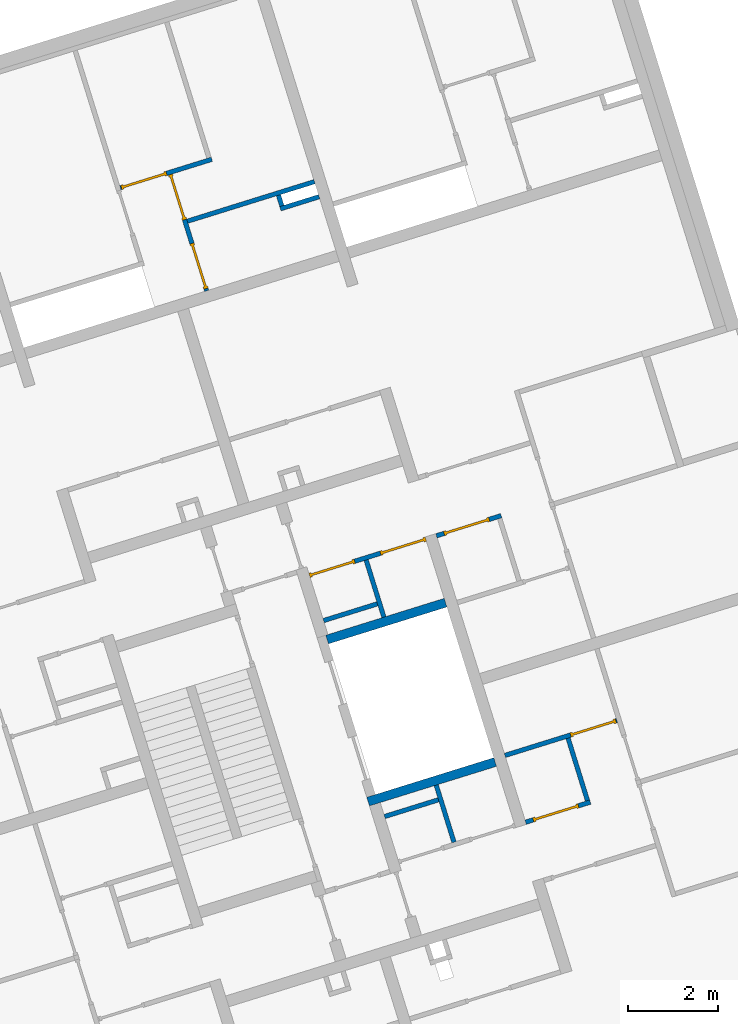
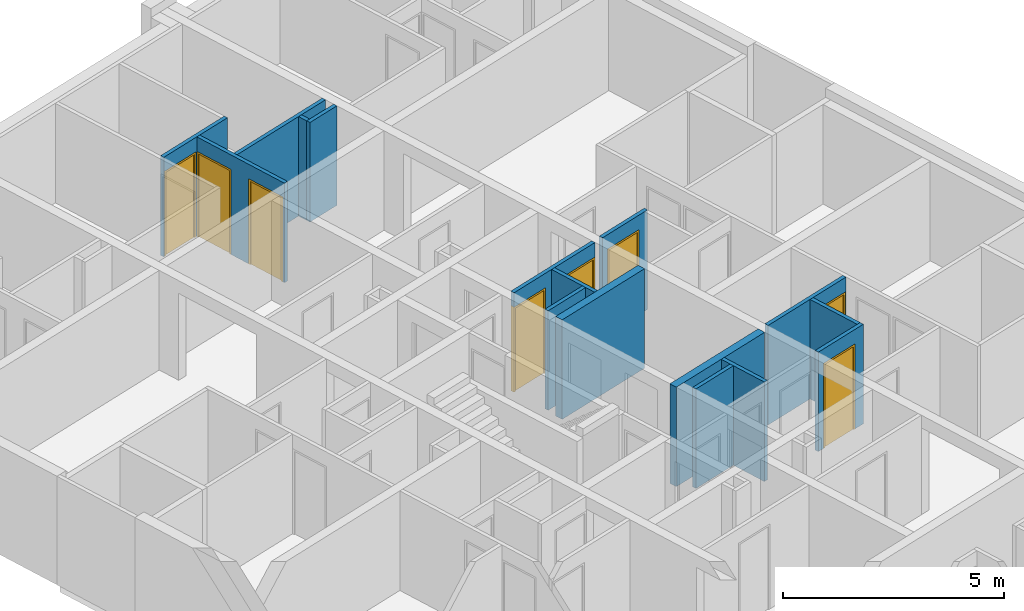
# One storey, part 7 of 12: 16 walls, 8 doors, 10 openings.
"""IFC4 building model written with IfcOpenShell, lengths in metres."""

from ifc_helpers import new_model, entity, si_unit, converted_unit, direction, frame, origin, place, context, subcontext, project, spatial, indexed_curve, outline, extrude, polygons, source, transform, mapped, material, constituent, constituent_set, type_object, type_shapes, element, fill, save


model = new_model("IFC4")

# Units and contexts
model_context = context("Model", 3, precision=1e-05, world=origin(), true_north=direction((6.12323399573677e-17, 1.0)))
body_context = subcontext(model_context, "Body", "Model", "MODEL_VIEW")
ifc_project = project(units=[si_unit("LENGTHUNIT", "METRE"), si_unit("AREAUNIT", "SQUARE_METRE"), converted_unit("PLANEANGLEUNIT", "DEGREE", entity("IfcPlaneAngleMeasure", 0.0174532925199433), si_unit("PLANEANGLEUNIT", "RADIAN"), dimensions=[0, 0, 0, 0, 0, 0, 0]), si_unit("VOLUMEUNIT", "CUBIC_METRE")], contexts=[model_context])

# Site, building, storey
site_placement = place(None, frame((13.1347999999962, 11.9886000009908, 0.0), z_axis=(0.0, 0.0, 1.0), x_axis=(0.954770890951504, 0.297342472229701, 0.0)))
site = spatial("IfcSite", under=ifc_project, at=site_placement, Name="Schiehaven", CompositionType="ELEMENT")
building_placement = place(site_placement, origin())
building = spatial("IfcBuilding", under=site, at=building_placement, Name="VORM huis", CompositionType="ELEMENT")
storey_placement = place(building_placement, frame((0.0, 0.0, 3.9)))
storey = spatial("IfcBuildingStorey", under=building, at=storey_placement, Name="01 eerste verdieping", CompositionType="ELEMENT", Elevation=3.9)

# Walls
ifc_material_1 = material(Name="beton_gewapend_prefab-element", Category="Miscellaneous")
wall_type_1 = type_object("IfcWallType", Name="Basic Wall:28_WA_skelet_wand 200mm_gen", PredefinedType="STANDARD")
wall_1_placement = place(storey_placement, frame((72.3750000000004, 15.2000000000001, 0.0), z_axis=(0.0, 0.0, 1.0), x_axis=(-1.0, 0.0, 0.0)))
element("IfcWall", 1, at=wall_1_placement, inside=storey, type_object=wall_type_1, material=ifc_material_1, Name="Constructieve wand", ObjectType="Wand", PredefinedType="NOTDEFINED", context=body_context, shape_type="SweptSolid", body=[
    extrude(outline(indexed_curve([(2.95, 0.0999999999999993), (3.5332231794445e-16, 0.0999999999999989), (-3.5332231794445e-16, -0.0999999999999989), (2.95, -0.0999999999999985), (2.95, 0.0999999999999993)], self_intersect=False)), origin(), (0.0, 0.0, 1.0), 2.75),
])
wall_2_placement = place(storey_placement, frame((69.6250000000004, 18.9, 0.0)))
element("IfcWall", 2, at=wall_2_placement, inside=storey, type_object=wall_type_1, material=ifc_material_1, Name="Constructieve wand", ObjectType="Wand", PredefinedType="NOTDEFINED", context=body_context, shape_type="SweptSolid", body=[
    extrude(outline(indexed_curve([(2.75, 0.0999999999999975), (2.07315726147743e-16, 0.0999999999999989), (-2.07315726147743e-16, -0.0999999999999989), (2.75, -0.1), (2.75, 0.0999999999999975)], self_intersect=False)), origin(), (0.0, 0.0, 1.0), 2.75),
])

# Wall, openings, door
ifc_material_2 = material(Name="ntb_ntb_ntb", Category="Miscellaneous")
wall_type_2 = type_object("IfcWallType", Name="Basic Wall:22_WA_afbouw_binnenwand 100mm_gen", PredefinedType="STANDARD")
wall_3_placement = place(storey_placement, frame((68.2250000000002, 29.8249999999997, 0.0)))
wall_3 = element("IfcWall", 3, at=wall_3_placement, inside=storey, type_object=wall_type_2, material=ifc_material_2, Name="Binnenwand", ObjectType="Wand", PredefinedType="NOTDEFINED", context=body_context, shape_type="Tessellation", body=[
    polygons([(2.12499999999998, -0.0500000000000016, 2.75), (1.19999999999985, -0.0499999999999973, 2.75), (1.09999999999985, -0.0499999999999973, 2.75), (-6.43218536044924e-15, -0.0499999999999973, 2.75), (2.23075167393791e-15, -0.0499999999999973, 2.34999999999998), (-6.43218536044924e-15, -0.0499999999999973, 0.0), (0.0250000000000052, -0.0499999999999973, 0.0), (0.0250000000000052, -0.0499999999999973, 2.34999999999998), (1.07500000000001, -0.0499999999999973, 2.34999999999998), (1.07500000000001, -0.0499999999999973, 0.0), (2.12499999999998, -0.0500000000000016, 0.0), (-7.09387066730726e-15, 0.050000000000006, 2.75), (2.02499999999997, 0.0500000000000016, 2.75), (2.12499999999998, 0.0500000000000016, 2.75), (2.12499999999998, 0.0500000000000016, 0.0), (2.02499999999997, 0.0500000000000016, 5.41433564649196e-16), (1.07500000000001, 0.0500000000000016, 0.0), (1.07500000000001, 0.0500000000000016, 2.34999999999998), (0.0250000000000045, 0.050000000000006, 2.34999999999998), (0.0250000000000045, 0.050000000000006, 0.0), (-7.09387066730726e-15, 0.050000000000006, 0.0)], [[[1, 2, 3, 4, 5, 6, 7, 8, 9, 10, 11]], [[12, 13, 14, 15, 16, 17, 18, 19, 20, 21]], [[6, 21, 20, 7]], [[4, 3, 2, 1, 14, 13, 12]], [[6, 5, 4, 12, 21]], [[19, 8, 7, 20]], [[9, 18, 17, 10]], [[8, 19, 18, 9]], [[1, 11, 15, 14]], [[15, 11, 10, 17, 16]]], closed=True),
])
opening_1_placement = place(wall_3_placement, origin())
element("IfcOpeningElement", 4, at=opening_1_placement, cuts=wall_3, Name="Binnendeur", PredefinedType="OPENING", context=body_context, shape_type="SweptSolid", body=[
    extrude(outline(indexed_curve([(-0.050000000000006, -1.17499999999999), (0.0499999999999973, -1.17499999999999), (0.0499999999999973, 1.17499999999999), (-0.050000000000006, 1.17499999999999), (-0.050000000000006, -1.17499999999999)], self_intersect=False)), frame((1.14999999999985, -1.10000000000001, 1.17499999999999), z_axis=(0.0, 1.0, 0.0), x_axis=(1.0, 0.0, 0.0)), (0.0, 0.0, 1.0), 1.05),
])
opening_2_placement = place(wall_3_placement, frame((1.07500000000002, 0.049999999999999, 0.0)))
opening_2 = element("IfcOpeningElement", 5, at=opening_2_placement, cuts=wall_3, Name="Binnendeur", PredefinedType="OPENING", context=body_context, shape_type="SweptSolid", body=[
    extrude(outline(indexed_curve([(2.34999999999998, 1.05), (0.0, 1.05), (0.0, -1.13635160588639e-29), (2.34999999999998, -1.13635160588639e-29), (2.34999999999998, 1.05)], self_intersect=False)), frame((0.0, 0.0, 0.0), z_axis=(0.0, -1.0, 0.0), x_axis=(0.0, 0.0, 1.0)), (0.0, 0.0, 1.0), 0.1),
])
ifc_material_3 = material(Name="PD_a_binnenwandopeningen", Category="Miscellaneous")
ifc_constituent_1 = constituent(ifc_material_3, Name="PD_a_binnenwandopeningen", Category="Miscellaneous")
ifc_material_4 = material(Name="metaal_aluminium_ntb", Category="Miscellaneous")
ifc_constituent_2 = constituent(ifc_material_4, Name="metaal_aluminium_ntb", Category="Miscellaneous")
ifc_constituent_set_1 = constituent_set(constituents=[ifc_constituent_1, ifc_constituent_2])
ifc_constituent_3 = constituent(ifc_material_3, Name="PD_a_binnenwandopeningen", Category="Miscellaneous")
ifc_constituent_4 = constituent(ifc_material_4, Name="Panel", Category="Miscellaneous")
ifc_constituent_set_2 = constituent_set(constituents=[ifc_constituent_3, ifc_constituent_4])
door_type_1 = type_object("IfcDoorType", Name="32_DO_binnendeur enkel:binnendeur", OperationType="REVOLVING", PredefinedType="DOOR", material=ifc_constituent_set_2)
shared_shape_1 = source(origin(), body_context, "Body", "SweptSolid", [
    extrude(outline(indexed_curve([(-1.16249999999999, -0.525000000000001), (1.18749999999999, -0.525), (1.18749999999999, 0.525), (-1.16249999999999, 0.525), (-1.16249999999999, 0.475), (1.13749999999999, 0.475), (1.13749999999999, -0.475), (-1.16249999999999, -0.475), (-1.16249999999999, -0.525000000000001)], self_intersect=False)), frame((0.525000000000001, 0.0, 1.16249999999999), z_axis=(0.0, 1.0, 0.0), x_axis=(0.0, 0.0, 1.0)), (0.0, 0.0, 1.0), 0.1),
    extrude(outline(indexed_curve([(-0.025, -0.475), (0.025, -0.475), (0.025, 0.475), (-0.025, 0.475), (-0.025, -0.475)], self_intersect=False)), frame((0.525000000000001, 0.0499999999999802, 0.0), z_axis=(0.0, 0.0, 1.0), x_axis=(0.0, 1.0, 0.0)), (0.0, 0.0, 1.0), 2.29999999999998),
])
type_shapes(door_type_1, [shared_shape_1])
door_1_placement = place(opening_2_placement, frame((0.0, 0.0, 0.0), z_axis=(0.0, 0.0, 1.0), x_axis=(-1.0, 0.0, 0.0)))
door_1 = element("IfcDoor", 6, at=door_1_placement, inside=storey, type_object=door_type_1, material=ifc_constituent_set_1, Name="Binnendeur", ObjectType="Deur", OperationType="REVOLVING", OverallHeight=2.34999999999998, OverallWidth=1.05, PredefinedType="DOOR", context=body_context, shape_type="MappedRepresentation", body=[
    mapped(shared_shape_1, transform((0.0, 0.0, 0.0), scale=1.0)),
])
fill(opening_2, door_1)

# Wall, openings, doors
wall_4_placement = place(storey_placement, frame((69.375, 29.7749999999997, 0.0), z_axis=(0.0, 0.0, 1.0), x_axis=(0.0, -1.0, 0.0)))
wall_4 = element("IfcWall", 7, at=wall_4_placement, inside=storey, type_object=wall_type_2, material=ifc_material_2, Name="Binnenwand", ObjectType="Wand", PredefinedType="NOTDEFINED", context=body_context, shape_type="Tessellation", body=[
    polygons([(2.69999999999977, -0.0499999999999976, 2.75), (0.0, -0.0500000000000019, 2.75), (0.0, -0.0500000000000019, 2.34999999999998), (1.05, -0.0500000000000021, 2.34999999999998), (1.05, -0.0500000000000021, 0.0), (1.59999999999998, -0.0499999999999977, 0.0), (1.59999999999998, -0.0499999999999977, 2.34999999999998), (2.64999999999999, -0.049999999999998, 2.34999999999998), (2.64999999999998, -0.049999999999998, 0.0), (2.69999999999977, -0.0499999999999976, 0.0), (0.0, 0.0500000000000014, 2.75), (1.05000000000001, 0.0500000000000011, 2.75), (1.15000000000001, 0.0500000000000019, 2.75), (2.69999999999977, 0.0500000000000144, 2.75), (2.69999999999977, 0.0500000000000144, 0.0), (2.64999999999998, 0.050000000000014, 0.0), (2.64999999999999, 0.050000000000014, 2.34999999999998), (1.59999999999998, 0.0500000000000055, 2.34999999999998), (1.59999999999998, 0.0500000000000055, 0.0), (1.15000000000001, 0.0500000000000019, 5.41433564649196e-16), (1.05, 0.0500000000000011, 0.0), (1.05, 0.0500000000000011, 2.34999999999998), (0.0, 0.0500000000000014, 2.34999999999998)], [[[1, 2, 3, 4, 5, 6, 7, 8, 9, 10]], [[11, 12, 13, 14, 15, 16, 17, 18, 19, 20, 21, 22, 23]], [[9, 16, 15, 10]], [[2, 1, 14, 13, 12, 11]], [[18, 17, 8, 7]], [[17, 16, 9, 8]], [[19, 18, 7, 6]], [[2, 11, 23, 3]], [[4, 22, 21, 5]], [[22, 4, 3, 23]], [[1, 10, 15, 14]], [[19, 6, 5, 21, 20]]], closed=True),
])
opening_3_placement = place(wall_4_placement, frame((2.64999999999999, 0.0499999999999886, 0.0)))
opening_3 = element("IfcOpeningElement", 8, at=opening_3_placement, cuts=wall_4, Name="Binnendeur", PredefinedType="OPENING", context=body_context, shape_type="SweptSolid", body=[
    extrude(outline(indexed_curve([(2.34999999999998, 1.05), (0.0, 1.05), (0.0, 0.0), (2.34999999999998, 0.0), (2.34999999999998, 1.05)], self_intersect=False)), frame((0.0, 0.0, 0.0), z_axis=(0.0, -1.0, 0.0), x_axis=(0.0, 0.0, 1.0)), (0.0, 0.0, 1.0), 0.1),
])
opening_4_placement = place(wall_4_placement, frame((29.7749999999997, -69.375, 0.0), z_axis=(0.0, 0.0, 1.0), x_axis=(0.0, 1.0, 0.0)))
element("IfcOpeningElement", 9, at=opening_4_placement, cuts=wall_4, Name="Binnendeur", PredefinedType="OPENING", context=body_context, shape_type="SweptSolid", body=[
    extrude(outline(indexed_curve([(-0.525000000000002, -1.17499999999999), (0.525000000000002, -1.17499999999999), (0.524999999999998, 1.17499999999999), (-0.525000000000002, 1.17499999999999), (-0.525000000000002, -1.17499999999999)], self_intersect=False)), frame((67.901, 27.6499999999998, 1.17499999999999), z_axis=(1.0, 0.0, 0.0), x_axis=(0.0, -1.0, 0.0)), (0.0, 0.0, 1.0), 3.048),
])
opening_5_placement = place(wall_4_placement, frame((1.05000000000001, 0.050000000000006, 0.0)))
opening_5 = element("IfcOpeningElement", 10, at=opening_5_placement, cuts=wall_4, Name="Binnendeur", PredefinedType="OPENING", context=body_context, shape_type="SweptSolid", body=[
    extrude(outline(indexed_curve([(2.34999999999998, 1.05), (0.0, 1.05), (0.0, 0.0), (2.34999999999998, 0.0), (2.34999999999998, 1.05)], self_intersect=False)), frame((0.0, 0.0, 0.0), z_axis=(0.0, -1.0, 0.0), x_axis=(0.0, 0.0, 1.0)), (0.0, 0.0, 1.0), 0.1),
])
ifc_constituent_5 = constituent(ifc_material_3, Name="PD_a_binnenwandopeningen", Category="Miscellaneous")
ifc_constituent_6 = constituent(ifc_material_4, Name="metaal_aluminium_ntb", Category="Miscellaneous")
ifc_constituent_set_3 = constituent_set(constituents=[ifc_constituent_5, ifc_constituent_6])
door_2_placement = place(opening_3_placement, frame((0.0, 0.0, 0.0), z_axis=(0.0, 0.0, 1.0), x_axis=(-1.0, 0.0, 0.0)))
door_2 = element("IfcDoor", 11, at=door_2_placement, inside=storey, type_object=door_type_1, material=ifc_constituent_set_3, Name="Binnendeur", ObjectType="Deur", OperationType="REVOLVING", OverallHeight=2.34999999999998, OverallWidth=1.05, PredefinedType="DOOR", context=body_context, shape_type="MappedRepresentation", body=[
    mapped(shared_shape_1, transform((0.0, 0.0, 0.0), scale=1.0)),
])
fill(opening_3, door_2)
ifc_constituent_7 = constituent(ifc_material_3, Name="PD_a_binnenwandopeningen", Category="Miscellaneous")
ifc_constituent_8 = constituent(ifc_material_4, Name="metaal_aluminium_ntb", Category="Miscellaneous")
ifc_constituent_set_4 = constituent_set(constituents=[ifc_constituent_7, ifc_constituent_8])
door_3_placement = place(opening_5_placement, frame((0.0, 0.0, 0.0), z_axis=(0.0, 0.0, 1.0), x_axis=(-1.0, 0.0, 0.0)))
door_3 = element("IfcDoor", 12, at=door_3_placement, inside=storey, type_object=door_type_1, material=ifc_constituent_set_4, Name="Binnendeur", ObjectType="Deur", OperationType="REVOLVING", OverallHeight=2.34999999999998, OverallWidth=1.05, PredefinedType="DOOR", context=body_context, shape_type="MappedRepresentation", body=[
    mapped(shared_shape_1, transform((0.0, 0.0, 0.0), scale=1.0)),
])
fill(opening_5, door_3)

# Walls
wall_5_placement = place(storey_placement, frame((69.425, 28.6749999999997, 0.0)))
element("IfcWall", 13, at=wall_5_placement, inside=storey, type_object=wall_type_2, material=ifc_material_2, Name="Binnenwand", ObjectType="Wand", PredefinedType="NOTDEFINED", context=body_context, shape_type="SweptSolid", body=[
    extrude(outline(indexed_curve([(2.9500000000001, 0.0499999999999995), (-3.30842653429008e-16, 0.0500000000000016), (3.30842653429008e-16, -0.0500000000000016), (2.9500000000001, -0.0500000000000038), (2.9500000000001, 0.0499999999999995)], self_intersect=False)), origin(), (0.0, 0.0, 1.0), 2.75),
])
wall_6_placement = place(storey_placement, frame((72.3750000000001, 28.3249999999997, 0.0), z_axis=(0.0, 0.0, 1.0), x_axis=(-1.0, 0.0, 0.0)))
element("IfcWall", 14, at=wall_6_placement, inside=storey, type_object=wall_type_2, material=ifc_material_2, Name="Binnenwand", ObjectType="Wand", PredefinedType="NOTDEFINED", context=body_context, shape_type="SweptSolid", body=[
    extrude(outline(indexed_curve([(0.899999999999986, 0.0500000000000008), (-4.33538283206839e-16, 0.0500000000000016), (4.33538283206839e-16, -0.0500000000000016), (0.899999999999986, -0.0500000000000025), (0.899999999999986, 0.0500000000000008)], self_intersect=False)), origin(), (0.0, 0.0, 1.0), 2.75),
])
wall_7_placement = place(storey_placement, frame((71.5250000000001, 28.3749999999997, 0.0), z_axis=(0.0, 0.0, 1.0), x_axis=(0.0, 1.0, 0.0)))
element("IfcWall", 15, at=wall_7_placement, inside=storey, type_object=wall_type_2, material=ifc_material_2, Name="Binnenwand", ObjectType="Wand", PredefinedType="NOTDEFINED", context=body_context, shape_type="SweptSolid", body=[
    extrude(outline(indexed_curve([(0.250000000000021, 0.049999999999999), (-3.3084265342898e-16, 0.0499999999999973), (3.3084265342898e-16, -0.0499999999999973), (0.250000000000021, -0.0499999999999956), (0.250000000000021, 0.049999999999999)], self_intersect=False)), origin(), (0.0, 0.0, 1.0), 2.75),
])

# Wall, opening, door
wall_8_placement = place(storey_placement, frame((75.2249999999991, 15.2749999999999, 0.0), z_axis=(0.0, 0.0, 1.0), x_axis=(-1.0, 0.0, 0.0)))
wall_8 = element("IfcWall", 16, at=wall_8_placement, inside=storey, type_object=wall_type_2, material=ifc_material_2, Name="Binnenwand", ObjectType="Wand", PredefinedType="NOTDEFINED", context=body_context, shape_type="Tessellation", body=[
    polygons([(1.07500000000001, -0.0499999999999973, 2.34999999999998), (1.07500000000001, -0.0499999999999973, -5.41433564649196e-16), (2.59999999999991, -0.0499999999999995, -5.41433564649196e-16), (2.59999999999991, -0.0499999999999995, 2.75), (7.67813618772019e-15, -0.0499999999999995, 2.75), (7.67813618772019e-15, -0.0499999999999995, -5.41433564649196e-16), (0.025000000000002, -0.0499999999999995, -5.41433564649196e-16), (0.025000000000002, -0.0499999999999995, 2.34999999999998), (2.59999999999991, 0.0499999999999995, -5.41433564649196e-16), (1.20000000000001, 0.0499999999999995, 0.0), (1.10000000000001, 0.0499999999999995, 0.0), (1.07500000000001, 0.0499999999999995, -5.41433564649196e-16), (1.07500000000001, 0.0499999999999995, 2.34999999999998), (0.0250000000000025, 0.0500000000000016, 2.34999999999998), (0.0250000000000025, 0.0500000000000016, -5.41433564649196e-16), (8.13678739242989e-15, 0.0499999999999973, -5.41433564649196e-16), (8.13678739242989e-15, 0.0499999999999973, 2.75), (1.10000000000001, 0.0499999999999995, 2.75), (1.20000000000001, 0.0499999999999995, 2.75), (2.59999999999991, 0.0499999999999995, 2.75)], [[[1, 2, 3, 4, 5, 6, 7, 8]], [[9, 10, 11, 12, 13, 14, 15, 16, 17, 18, 19, 20]], [[7, 6, 16, 15]], [[4, 3, 9, 20]], [[5, 4, 20, 19, 18, 17]], [[15, 14, 8, 7]], [[13, 12, 2, 1]], [[14, 13, 1, 8]], [[6, 5, 17, 16]], [[3, 2, 12, 11, 10, 9]]], closed=True),
])
opening_6_placement = place(wall_8_placement, frame((0.0249999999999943, -0.0500000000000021, 0.0)))
opening_6 = element("IfcOpeningElement", 17, at=opening_6_placement, cuts=wall_8, Name="Binnendeur", PredefinedType="OPENING", context=body_context, shape_type="SweptSolid", body=[
    extrude(outline(indexed_curve([(2.34999999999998, 2.21168155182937e-30), (2.34999999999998, 1.05), (0.0, 1.05), (0.0, 2.21168155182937e-30), (2.34999999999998, 2.21168155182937e-30)], self_intersect=False)), frame((0.0, 0.0, 0.0), z_axis=(0.0, 1.0, 0.0), x_axis=(0.0, 0.0, 1.0)), (0.0, 0.0, 1.0), 0.1),
])
ifc_constituent_9 = constituent(ifc_material_3, Name="PD_a_binnenwandopeningen", Category="Miscellaneous")
ifc_constituent_10 = constituent(ifc_material_4, Name="metaal_aluminium_ntb", Category="Miscellaneous")
ifc_constituent_set_5 = constituent_set(constituents=[ifc_constituent_9, ifc_constituent_10])
ifc_constituent_11 = constituent(ifc_material_3, Name="PD_a_binnenwandopeningen", Category="Miscellaneous")
ifc_constituent_12 = constituent(ifc_material_4, Name="Panel", Category="Miscellaneous")
ifc_constituent_set_6 = constituent_set(constituents=[ifc_constituent_11, ifc_constituent_12])
door_type_2 = type_object("IfcDoorType", Name="32_DO_binnendeur enkel:binnendeur", OperationType="REVOLVING", PredefinedType="DOOR", material=ifc_constituent_set_6)
shared_shape_2 = source(origin(), body_context, "Body", "SweptSolid", [
    extrude(outline(indexed_curve([(0.475, -1.16249999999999), (0.525, -1.16249999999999), (0.525, 1.18749999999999), (-0.525, 1.18749999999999), (-0.525, -1.16249999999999), (-0.475, -1.16249999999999), (-0.475, 1.13749999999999), (0.475, 1.13749999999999), (0.475, -1.16249999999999)], self_intersect=False)), frame((0.525000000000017, 0.100000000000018, 1.16249999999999), z_axis=(0.0, -1.0, 0.0), x_axis=(1.0, 0.0, 0.0)), (0.0, 0.0, 1.0), 0.1),
    extrude(outline(indexed_curve([(-0.475, -0.025), (0.475, -0.025), (0.475, 0.025), (-0.475, 0.025), (-0.475, -0.025)], self_intersect=False)), frame((0.525000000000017, 0.0499999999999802, 0.0)), (0.0, 0.0, 1.0), 2.29999999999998),
])
type_shapes(door_type_2, [shared_shape_2])
door_4_placement = place(opening_6_placement, origin())
door_4 = element("IfcDoor", 18, at=door_4_placement, inside=storey, type_object=door_type_2, material=ifc_constituent_set_5, Name="Binnendeur", ObjectType="Deur", OperationType="REVOLVING", OverallHeight=2.34999999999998, OverallWidth=1.05, PredefinedType="DOOR", context=body_context, shape_type="MappedRepresentation", body=[
    mapped(shared_shape_2, transform((0.0, 0.0, 0.0), scale=1.0)),
])
fill(opening_6, door_4)

# Walls
wall_9_placement = place(storey_placement, frame((74.0749999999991, 15.2249999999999, 0.0), z_axis=(0.0, 0.0, 1.0), x_axis=(0.0, -1.0, 0.0)))
element("IfcWall", 19, at=wall_9_placement, inside=storey, type_object=wall_type_2, material=ifc_material_2, Name="Binnenwand", ObjectType="Wand", PredefinedType="NOTDEFINED", context=body_context, shape_type="SweptSolid", body=[
    extrude(outline(indexed_curve([(1.4500000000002, 0.0499999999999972), (3.02748582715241e-16, 0.0499999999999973), (-3.02748582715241e-16, -0.0499999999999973), (1.4500000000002, -0.0499999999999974), (1.4500000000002, 0.0499999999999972)], self_intersect=False)), origin(), (0.0, 0.0, 1.0), 2.75),
])
wall_10_placement = place(storey_placement, frame((69.6749999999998, 14.7749999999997, 0.0)))
element("IfcWall", 20, at=wall_10_placement, inside=storey, type_object=wall_type_2, material=ifc_material_2, Name="Binnenwand", ObjectType="Wand", PredefinedType="NOTDEFINED", context=body_context, shape_type="SweptSolid", body=[
    extrude(outline(indexed_curve([(1.24999999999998, 0.0499999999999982), (4.83439307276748e-16, 0.0499999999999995), (-4.83439307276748e-16, -0.0499999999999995), (1.24999999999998, -0.0500000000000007), (1.24999999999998, 0.0499999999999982)], self_intersect=False)), origin(), (0.0, 0.0, 1.0), 2.75),
])
wall_11_placement = place(storey_placement, frame((70.9749999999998, 13.7749999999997, 0.0), z_axis=(0.0, 0.0, 1.0), x_axis=(0.0, 1.0, 0.0)))
element("IfcWall", 21, at=wall_11_placement, inside=storey, type_object=wall_type_2, material=ifc_material_2, Name="Binnenwand", ObjectType="Wand", PredefinedType="NOTDEFINED", context=body_context, shape_type="SweptSolid", body=[
    extrude(outline(indexed_curve([(1.32500000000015, 0.0499999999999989), (2.65719990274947e-16, 0.0499999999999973), (-2.65719990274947e-16, -0.0499999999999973), (1.32500000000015, -0.0499999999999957), (1.32500000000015, 0.0499999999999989)], self_intersect=False)), origin(), (0.0, 0.0, 1.0), 2.75),
])

# Wall, opening, door
wall_12_placement = place(storey_placement, frame((72.6228357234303, 13.7249999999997, 0.0)))
wall_12 = element("IfcWall", 22, at=wall_12_placement, inside=storey, type_object=wall_type_2, material=ifc_material_2, Name="Binnenwand", ObjectType="Wand", PredefinedType="NOTDEFINED", context=body_context, shape_type="Tessellation", body=[
    polygons([(-4.30754622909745e-15, -0.0500000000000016, -5.41433564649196e-16), (0.176082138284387, -0.0499999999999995, -5.41433564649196e-16), (0.176082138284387, -0.0499999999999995, 2.34999999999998), (1.22608213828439, -0.0499999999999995, 2.34999999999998), (1.22608213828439, -0.0499999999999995, -5.41433564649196e-16), (1.50216427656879, -0.0499999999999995, -5.41433564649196e-16), (1.50216427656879, -0.0499999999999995, 2.75), (-4.30754622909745e-15, -0.0500000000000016, 2.75), (0.176082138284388, 0.0499999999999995, 2.34999999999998), (0.176082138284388, 0.0499999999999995, -5.41433564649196e-16), (-3.32546618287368e-15, 0.0499999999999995, -5.41433564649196e-16), (-3.32546618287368e-15, 0.0499999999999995, 2.75), (1.40216427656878, 0.0499999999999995, 2.75), (1.50216427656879, 0.0499999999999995, 2.75), (1.50216427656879, 0.0499999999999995, -5.41433564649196e-16), (1.40216427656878, 0.0499999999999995, 0.0), (1.22608213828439, 0.0499999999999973, -5.41433564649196e-16), (1.22608213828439, 0.0499999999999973, 2.34999999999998)], [[[1, 2, 3, 4, 5, 6, 7, 8]], [[9, 10, 11, 12, 13, 14, 15, 16, 17, 18]], [[11, 10, 2, 1]], [[8, 7, 14, 13, 12]], [[1, 8, 12, 11]], [[5, 4, 18, 17]], [[3, 2, 10, 9]], [[4, 3, 9, 18]], [[7, 6, 15, 14]], [[17, 16, 15, 6, 5]]], closed=True),
])
opening_7_placement = place(wall_12_placement, frame((1.22608213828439, 0.0500000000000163, 0.0)))
opening_7 = element("IfcOpeningElement", 23, at=opening_7_placement, cuts=wall_12, Name="Binnendeur", PredefinedType="OPENING", context=body_context, shape_type="SweptSolid", body=[
    extrude(outline(indexed_curve([(2.34999999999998, 1.62011819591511e-29), (2.34999999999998, 1.05), (0.0, 1.05), (0.0, 1.62011819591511e-29), (2.34999999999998, 1.62011819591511e-29)], self_intersect=False)), frame((0.0, 0.0, 0.0), z_axis=(0.0, -1.0, 0.0), x_axis=(0.0, 0.0, 1.0)), (0.0, 0.0, 1.0), 0.1),
])
ifc_constituent_13 = constituent(ifc_material_3, Name="PD_a_binnenwandopeningen", Category="Miscellaneous")
ifc_constituent_14 = constituent(ifc_material_4, Name="metaal_aluminium_ntb", Category="Miscellaneous")
ifc_constituent_set_7 = constituent_set(constituents=[ifc_constituent_13, ifc_constituent_14])
door_5_placement = place(opening_7_placement, frame((0.0, 0.0, 0.0), z_axis=(0.0, 0.0, 1.0), x_axis=(-1.0, 0.0, 0.0)))
door_5 = element("IfcDoor", 24, at=door_5_placement, inside=storey, type_object=door_type_2, material=ifc_constituent_set_7, Name="Binnendeur", ObjectType="Deur", OperationType="REVOLVING", OverallHeight=2.34999999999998, OverallWidth=1.05, PredefinedType="DOOR", context=body_context, shape_type="MappedRepresentation", body=[
    mapped(shared_shape_2, transform((0.0, 0.0, 0.0), scale=1.0)),
])
fill(opening_7, door_5)

# Wall, openings, doors
wall_13_placement = place(storey_placement, frame((69.6749999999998, 20.3750000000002, 0.0)))
wall_13 = element("IfcWall", 25, at=wall_13_placement, inside=storey, type_object=wall_type_2, material=ifc_material_2, Name="Binnenwand", ObjectType="Wand", PredefinedType="NOTDEFINED", context=body_context, shape_type="Tessellation", body=[
    polygons([(2.70000000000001, -0.0499999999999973, 2.75), (1.34999999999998, -0.0499999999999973, 2.75), (1.24999999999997, -0.0499999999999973, 2.75), (-3.75329629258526e-15, -0.0499999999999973, 2.75), (-3.75329629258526e-15, -0.0499999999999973, 2.34999999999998), (1.04999999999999, -0.0499999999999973, 2.34999999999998), (1.04999999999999, -0.0499999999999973, -5.41433564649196e-16), (1.24999999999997, -0.0499999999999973, 0.0), (1.34999999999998, -0.0499999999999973, 0.0), (1.64999999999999, -0.0500000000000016, -5.41433564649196e-16), (1.64999999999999, -0.0499999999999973, 2.34999999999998), (2.70000000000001, -0.0499999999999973, 2.34999999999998), (-4.70944837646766e-15, 0.0500000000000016, 2.75), (2.70000000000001, 0.0500000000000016, 2.75), (2.70000000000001, 0.0500000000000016, 2.34999999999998), (1.64999999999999, 0.0500000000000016, 2.34999999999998), (1.64999999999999, 0.0500000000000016, -5.41433564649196e-16), (1.04999999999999, 0.0500000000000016, -5.41433564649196e-16), (1.04999999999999, 0.0500000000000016, 2.34999999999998), (-4.70944837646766e-15, 0.0500000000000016, 2.34999999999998)], [[[1, 2, 3, 4, 5, 6, 7, 8, 9, 10, 11, 12]], [[13, 14, 15, 16, 17, 18, 19, 20]], [[7, 18, 17, 10, 9, 8]], [[14, 1, 12, 15]], [[4, 3, 2, 1, 14, 13]], [[4, 13, 20, 5]], [[6, 19, 18, 7]], [[19, 6, 5, 20]], [[16, 11, 10, 17]], [[11, 16, 15, 12]]], closed=True),
])
opening_8_placement = place(wall_13_placement, frame((0.0, -0.0500000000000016, 0.0)))
opening_8 = element("IfcOpeningElement", 26, at=opening_8_placement, cuts=wall_13, Name="Binnendeur", PredefinedType="OPENING", context=body_context, shape_type="SweptSolid", body=[
    extrude(outline(indexed_curve([(2.34999999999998, 1.05), (0.0, 1.05), (0.0, 0.0), (2.34999999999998, 0.0), (2.34999999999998, 1.05)], self_intersect=False)), frame((0.0, 0.0, 0.0), z_axis=(0.0, 1.0, 0.0), x_axis=(0.0, 0.0, 1.0)), (0.0, 0.0, 1.0), 0.1),
])
opening_9_placement = place(wall_13_placement, frame((1.65000000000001, -0.050000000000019, 0.0)))
opening_9 = element("IfcOpeningElement", 27, at=opening_9_placement, cuts=wall_13, Name="Binnendeur", PredefinedType="OPENING", context=body_context, shape_type="SweptSolid", body=[
    extrude(outline(indexed_curve([(2.34999999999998, 1.05), (0.0, 1.05), (0.0, 0.0), (2.34999999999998, 0.0), (2.34999999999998, 1.05)], self_intersect=False)), frame((0.0, 0.0, 0.0), z_axis=(0.0, 1.0, 0.0), x_axis=(0.0, 0.0, 1.0)), (0.0, 0.0, 1.0), 0.1),
])
ifc_constituent_15 = constituent(ifc_material_3, Name="PD_a_binnenwandopeningen", Category="Miscellaneous")
ifc_constituent_16 = constituent(ifc_material_4, Name="metaal_aluminium_ntb", Category="Miscellaneous")
ifc_constituent_set_8 = constituent_set(constituents=[ifc_constituent_15, ifc_constituent_16])
door_6_placement = place(opening_8_placement, origin())
door_6 = element("IfcDoor", 28, at=door_6_placement, inside=storey, type_object=door_type_1, material=ifc_constituent_set_8, Name="Binnendeur", ObjectType="Deur", OperationType="REVOLVING", OverallHeight=2.34999999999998, OverallWidth=1.05, PredefinedType="DOOR", context=body_context, shape_type="MappedRepresentation", body=[
    mapped(shared_shape_1, transform((0.0, 0.0, 0.0), scale=1.0)),
])
fill(opening_8, door_6)
ifc_constituent_17 = constituent(ifc_material_3, Name="PD_a_binnenwandopeningen", Category="Miscellaneous")
ifc_constituent_18 = constituent(ifc_material_4, Name="metaal_aluminium_ntb", Category="Miscellaneous")
ifc_constituent_set_9 = constituent_set(constituents=[ifc_constituent_17, ifc_constituent_18])
door_7_placement = place(opening_9_placement, origin())
door_7 = element("IfcDoor", 29, at=door_7_placement, inside=storey, type_object=door_type_1, material=ifc_constituent_set_9, Name="Binnendeur", ObjectType="Deur", OperationType="REVOLVING", OverallHeight=2.34999999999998, OverallWidth=1.05, PredefinedType="DOOR", context=body_context, shape_type="MappedRepresentation", body=[
    mapped(shared_shape_1, transform((0.0, 0.0, 0.0), scale=1.0)),
])
fill(opening_9, door_7)

# Walls
wall_14_placement = place(storey_placement, frame((69.6749999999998, 19.3250000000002, 0.0)))
element("IfcWall", 30, at=wall_14_placement, inside=storey, type_object=wall_type_2, material=ifc_material_2, Name="Binnenwand", ObjectType="Wand", PredefinedType="NOTDEFINED", context=body_context, shape_type="SweptSolid", body=[
    extrude(outline(indexed_curve([(1.24999999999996, 0.0500000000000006), (-4.78076041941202e-16, 0.0499999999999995), (4.78076041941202e-16, -0.0499999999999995), (1.24999999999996, -0.0499999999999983), (1.24999999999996, 0.0500000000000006)], self_intersect=False)), origin(), (0.0, 0.0, 1.0), 2.75),
])
wall_15_placement = place(storey_placement, frame((70.9749999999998, 20.3250000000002, 0.0), z_axis=(0.0, 0.0, 1.0), x_axis=(0.0, -1.0, 0.0)))
element("IfcWall", 31, at=wall_15_placement, inside=storey, type_object=wall_type_2, material=ifc_material_2, Name="Binnenwand", ObjectType="Wand", PredefinedType="NOTDEFINED", context=body_context, shape_type="SweptSolid", body=[
    extrude(outline(indexed_curve([(1.32500000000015, 0.0499999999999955), (-2.60356724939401e-16, 0.0499999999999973), (2.60356724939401e-16, -0.0499999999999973), (1.32500000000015, -0.0499999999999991), (1.32500000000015, 0.0499999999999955)], self_intersect=False)), origin(), (0.0, 0.0, 1.0), 2.75),
])

# Wall, opening, door
wall_16_placement = place(storey_placement, frame((72.6228357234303, 20.3750000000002, 0.0)))
wall_16 = element("IfcWall", 32, at=wall_16_placement, inside=storey, type_object=wall_type_2, material=ifc_material_2, Name="Binnenwand", ObjectType="Wand", PredefinedType="NOTDEFINED", context=body_context, shape_type="Tessellation", body=[
    polygons([(1.81994975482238e-15, -0.0499999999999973, -5.41433564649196e-16), (0.176082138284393, -0.0500000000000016, -5.41433564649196e-16), (0.176082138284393, -0.0500000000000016, 2.34999999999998), (1.2260821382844, -0.0499999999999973, 2.34999999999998), (1.2260821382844, -0.0499999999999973, -5.41433564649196e-16), (1.4021642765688, -0.0499999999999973, 0.0), (1.5021642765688, -0.0500000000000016, -5.41433564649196e-16), (1.5021642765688, -0.0500000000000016, 2.75), (1.4021642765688, -0.0499999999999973, 2.75), (1.81994975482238e-15, -0.0499999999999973, 2.75), (0.176082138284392, 0.0499999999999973, 2.34999999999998), (0.176082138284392, 0.0499999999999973, -5.41433564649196e-16), (8.48596239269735e-16, 0.0500000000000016, -5.41433564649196e-16), (8.48596239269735e-16, 0.0500000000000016, 2.75), (1.5021642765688, 0.0499999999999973, 2.75), (1.5021642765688, 0.0499999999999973, -5.41433564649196e-16), (1.2260821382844, 0.0500000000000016, -5.41433564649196e-16), (1.2260821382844, 0.0500000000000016, 2.34999999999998)], [[[1, 2, 3, 4, 5, 6, 7, 8, 9, 10]], [[11, 12, 13, 14, 15, 16, 17, 18]], [[13, 12, 2, 1]], [[10, 9, 8, 15, 14]], [[1, 10, 14, 13]], [[5, 4, 18, 17]], [[3, 2, 12, 11]], [[4, 3, 11, 18]], [[8, 7, 16, 15]], [[17, 16, 7, 6, 5]]], closed=True),
])
opening_10_placement = place(wall_16_placement, frame((0.176082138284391, -0.050000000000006, 0.0)))
opening_10 = element("IfcOpeningElement", 33, at=opening_10_placement, cuts=wall_16, Name="Binnendeur", PredefinedType="OPENING", context=body_context, shape_type="SweptSolid", body=[
    extrude(outline(indexed_curve([(2.34999999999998, 1.05), (0.0, 1.05), (0.0, 0.0), (2.34999999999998, 0.0), (2.34999999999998, 1.05)], self_intersect=False)), frame((0.0, 0.0, 0.0), z_axis=(0.0, 1.0, 0.0), x_axis=(0.0, 0.0, 1.0)), (0.0, 0.0, 1.0), 0.1),
])
ifc_constituent_19 = constituent(ifc_material_3, Name="PD_a_binnenwandopeningen", Category="Miscellaneous")
ifc_constituent_20 = constituent(ifc_material_4, Name="metaal_aluminium_ntb", Category="Miscellaneous")
ifc_constituent_set_10 = constituent_set(constituents=[ifc_constituent_19, ifc_constituent_20])
door_8_placement = place(opening_10_placement, origin())
door_8 = element("IfcDoor", 34, at=door_8_placement, inside=storey, type_object=door_type_1, material=ifc_constituent_set_10, Name="Binnendeur", ObjectType="Deur", OperationType="REVOLVING", OverallHeight=2.34999999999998, OverallWidth=1.05, PredefinedType="DOOR", context=body_context, shape_type="MappedRepresentation", body=[
    mapped(shared_shape_1, transform((0.0, 0.0, 0.0), scale=1.0)),
])
fill(opening_10, door_8)

save(model, "model.ifc")
